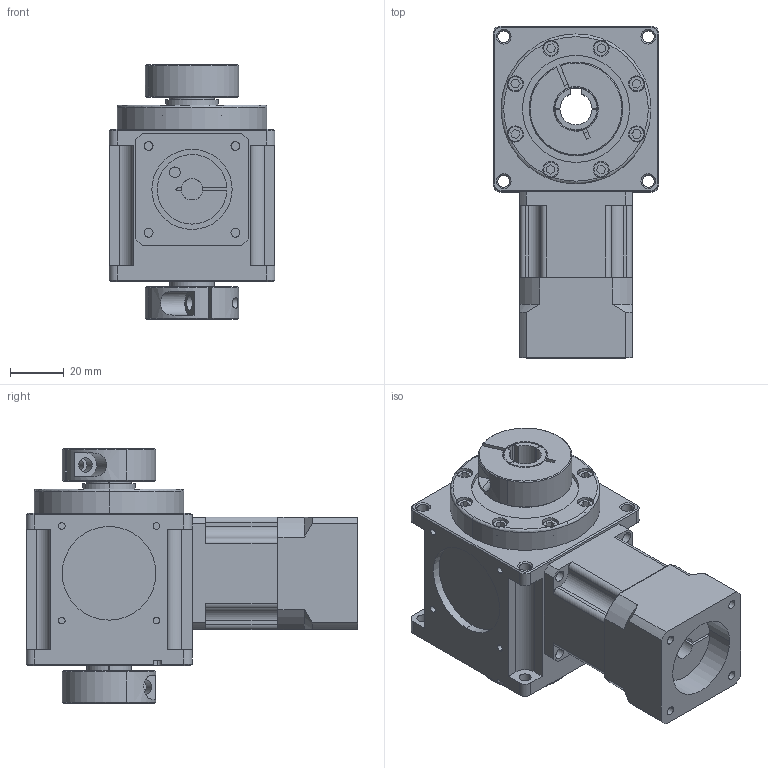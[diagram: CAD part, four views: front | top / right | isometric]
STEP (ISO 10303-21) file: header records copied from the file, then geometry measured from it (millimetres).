
FILE_DESCRIPTION (( 'STEP AP214' ), '1' );
FILE_NAME ('CCW062A-L1(6-20)-2HP-K 8-30-46-M4.STEP', '2025-06-02T07:56:01', ( '微软用户' ), ( '微软中国' ), 'SwSTEP 2.0', 'SolidWorks 2024', '' );
FILE_SCHEMA (( 'AUTOMOTIVE_DESIGN' ));
Length unit declared in the file: millimetre
Products named in the file (4): CCW062A-002-2HP-K箱体; CCW062A-L1(6-20)-2HP-K 8-30-46-M4; 042-L1齿圈; 标准型开口式固定环[FP-16-12-C]_FP-16-12-C
Assembly tree (4 placements, depth 2):
  CCW062A-L1(6-20)-2HP-K 8-30-46-M4
    CCW062A-002-2HP-K箱体
    042-L1齿圈
    标准型开口式固定环[FP-16-12-C]_FP-16-12-C  x2
Bounding box: 62 x 124 x 95 mm (x, y, z)
Volume: 311284.4 mm3; surface area: 58664 mm2
Topology: 4 solids, 4 shells, 498 faces, 1229 edges, 788 vertices
Faces by surface type: plane 232, cylinder 192, cone 66, torus 8
Entity records: 14210 total; most frequent: CARTESIAN_POINT 2679, DIRECTION 2502, ORIENTED_EDGE 2294, EDGE_CURVE 1147, AXIS2_PLACEMENT_3D 933, VERTEX_POINT 735, LINE 636, VECTOR 636
